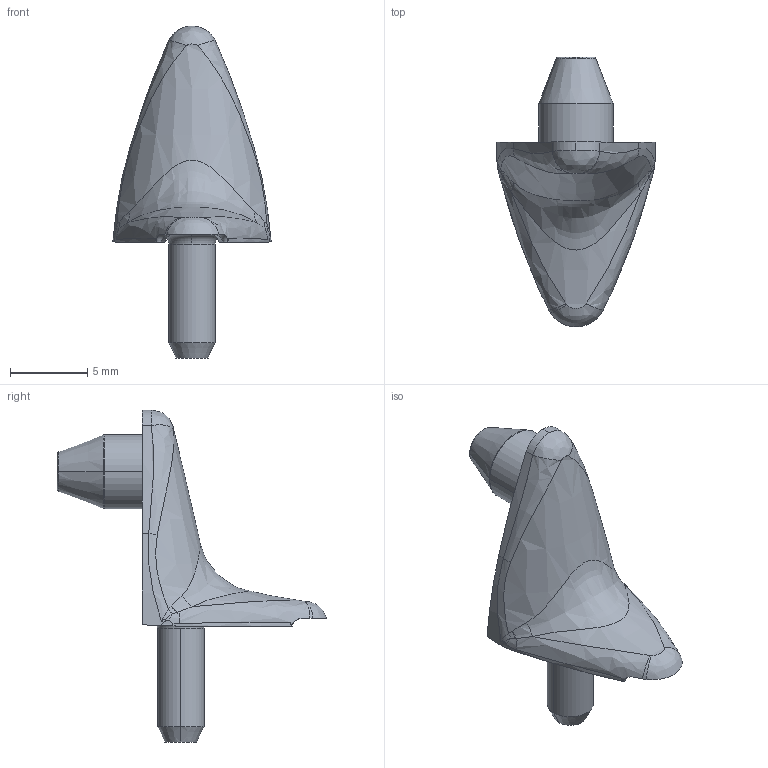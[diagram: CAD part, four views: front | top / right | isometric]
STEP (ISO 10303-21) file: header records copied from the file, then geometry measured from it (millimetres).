
FILE_DESCRIPTION (( 'STEP AP214' ), '1' );
FILE_NAME ('11620.STEP', '2025-10-30T13:10:57', ( '' ), ( '' ), 'SwSTEP 2.0', 'SolidWorks 2022', '' );
FILE_SCHEMA (( 'AUTOMOTIVE_DESIGN' ));
Length unit declared in the file: millimetre
Products named in the file (1): 11620
Bounding box: 10.24 x 17.45 x 21.5 mm (x, y, z)
Volume: 474.7 mm3; surface area: 542.2 mm2
Topology: 1 solids, 1 shells, 98 faces, 253 edges, 160 vertices
Faces by surface type: cylinder 30, bspline 30, plane 24, torus 8, cone 6
Entity records: 4246 total; most frequent: CARTESIAN_POINT 2057, ORIENTED_EDGE 506, DIRECTION 383, EDGE_CURVE 253, VERTEX_POINT 160, AXIS2_PLACEMENT_3D 152, EDGE_LOOP 101, FACE_OUTER_BOUND 98
